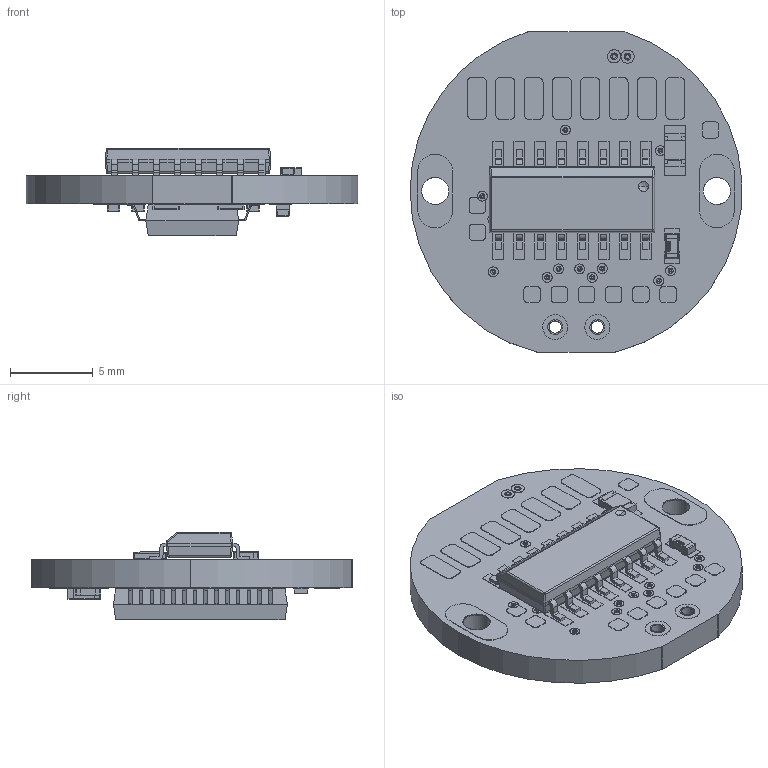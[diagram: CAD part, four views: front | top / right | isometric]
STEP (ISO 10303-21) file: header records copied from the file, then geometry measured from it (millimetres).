
FILE_DESCRIPTION (( 'STEP AP214' ), '1' );
FILE_NAME ('RMB20IC3_MODM222.STEP', '2017-07-14T09:00:28', ( '' ), ( '' ), 'SwSTEP 2.0', 'SolidWorks 2016', '' );
FILE_SCHEMA (( 'AUTOMOTIVE_DESIGN' ));
Length unit declared in the file: millimetre
Products named in the file (1): RMB20IC3_MODM222
Bounding box: 20.01 x 19.3 x 5.26 mm (x, y, z)
Volume: 702.2 mm3; surface area: 1606.5 mm2
Topology: 212 solids, 212 shells, 2807 faces, 6517 edges, 4133 vertices
Faces by surface type: plane 1572, bspline 796, cylinder 439
Entity records: 155381 total; most frequent: CARTESIAN_POINT 65355, ORIENTED_EDGE 12906, DIRECTION 8893, EDGE_CURVE 6453, VERTEX_POINT 4133, VECTOR 3635, LINE 3635, UNCERTAINTY_MEASURE_WITH_UNIT 3021
